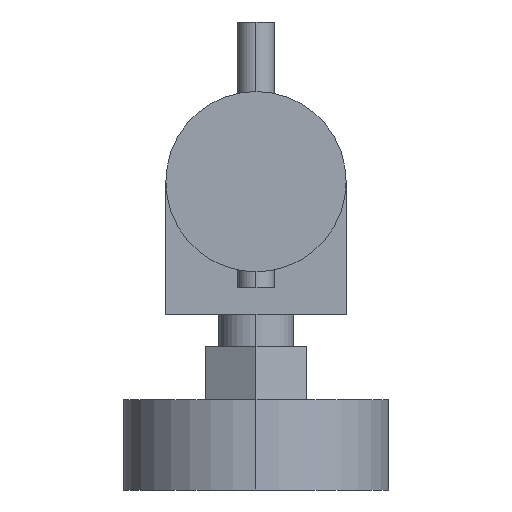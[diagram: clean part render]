
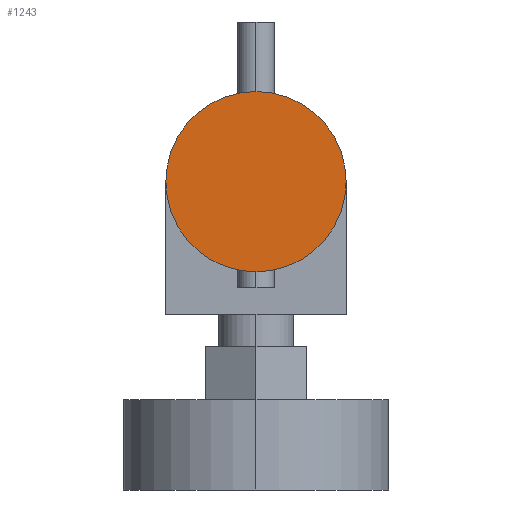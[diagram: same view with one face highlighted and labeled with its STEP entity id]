
A CAD part, left-side view. The second image highlights one B-rep face of the part: STEP entity #1243.
In plain terms, the highlighted planar face has unit normal (-1, 0, 0).
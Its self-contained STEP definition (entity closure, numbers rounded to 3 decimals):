
#1243 = ADVANCED_FACE('',(#1244),#1264,.T.);
#1244 = FACE_BOUND('',#1245,.T.);
#1245 = EDGE_LOOP('',(#1246,#1257));
#1246 = ORIENTED_EDGE('',*,*,#1247,.T.);
#1247 = EDGE_CURVE('',#1248,#1250,#1252,.T.);
#1248 = VERTEX_POINT('',#1249);
#1249 = CARTESIAN_POINT('',(-128.3,17.,
    58.128));
#1250 = VERTEX_POINT('',#1251);
#1251 = CARTESIAN_POINT('',(-128.3,-17.,58.128));
#1252 = CIRCLE('',#1253,17.);
#1253 = AXIS2_PLACEMENT_3D('',#1254,#1255,#1256);
#1254 = CARTESIAN_POINT('',(-128.3,0.,
    58.128));
#1255 = DIRECTION('',(-1.,0.,0.));
#1256 = DIRECTION('',(0.,-1.,0.));
#1257 = ORIENTED_EDGE('',*,*,#1258,.T.);
#1258 = EDGE_CURVE('',#1250,#1248,#1259,.T.);
#1259 = CIRCLE('',#1260,17.);
#1260 = AXIS2_PLACEMENT_3D('',#1261,#1262,#1263);
#1261 = CARTESIAN_POINT('',(-128.3,0.,
    58.128));
#1262 = DIRECTION('',(-1.,0.,0.));
#1263 = DIRECTION('',(0.,-1.,0.));
#1264 = PLANE('',#1265);
#1265 = AXIS2_PLACEMENT_3D('',#1266,#1267,#1268);
#1266 = CARTESIAN_POINT('',(-128.3,-17.,58.128));
#1267 = DIRECTION('',(-1.,0.,0.));
#1268 = DIRECTION('',(0.,0.,1.));
